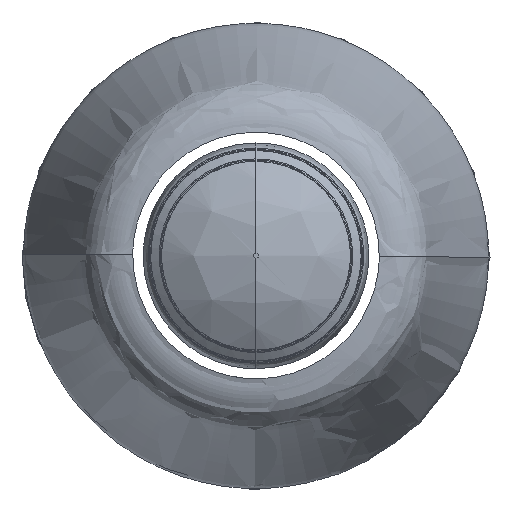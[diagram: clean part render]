
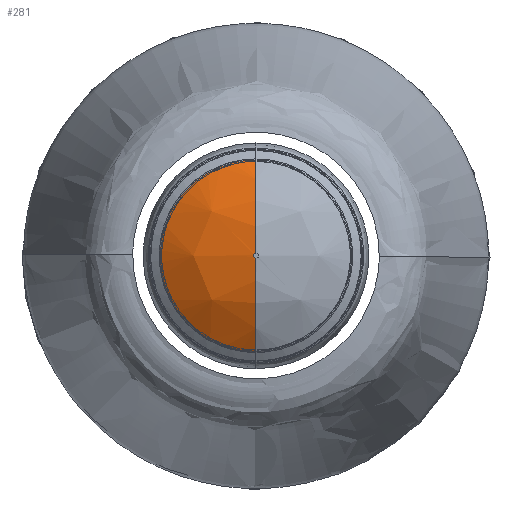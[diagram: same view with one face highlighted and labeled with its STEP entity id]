
A CAD part, top view. The second image highlights one B-rep face of the part: STEP entity #281.
In plain terms, the highlighted free-form (B-spline) face has degree [2, 2] with [9, 9] control points.
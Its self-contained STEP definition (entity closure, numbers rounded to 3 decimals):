
#281=ADVANCED_FACE('',(#935),#9039,.T.);
#935=FACE_OUTER_BOUND('',#1607,.T.);
#1607=EDGE_LOOP('',(#2770,#2771,#2772,#2773));
#2770=ORIENTED_EDGE('',*,*,#5384,.F.);
#2771=ORIENTED_EDGE('',*,*,#5387,.T.);
#2772=ORIENTED_EDGE('',*,*,#5388,.T.);
#2773=ORIENTED_EDGE('',*,*,#5389,.T.);
#5384=EDGE_CURVE('',#8130,#8131,#7311,.T.);
#5387=EDGE_CURVE('',#8130,#8132,#7314,.T.);
#5388=EDGE_CURVE('',#8132,#8133,#7315,.T.);
#5389=EDGE_CURVE('',#8133,#8131,#7316,.T.);
#7311=(
BOUNDED_CURVE()
B_SPLINE_CURVE(2,(#24371,#24372,#24373,#24374,#24375),.UNSPECIFIED.,.F.,
 .F.)
B_SPLINE_CURVE_WITH_KNOTS((3,2,3),(0.,116.48,232.959),
 .UNSPECIFIED.)
CURVE()
GEOMETRIC_REPRESENTATION_ITEM()
RATIONAL_B_SPLINE_CURVE((1.,0.707,1.,0.707,1.))
REPRESENTATION_ITEM('')
);
#7314=(
BOUNDED_CURVE()
B_SPLINE_CURVE(2,(#24382,#24383,#24384),.UNSPECIFIED.,.F.,.F.)
B_SPLINE_CURVE_WITH_KNOTS((3,3),(0.,76.904),.UNSPECIFIED.)
CURVE()
GEOMETRIC_REPRESENTATION_ITEM()
RATIONAL_B_SPLINE_CURVE((1.,0.953,1.))
REPRESENTATION_ITEM('')
);
#7315=(
BOUNDED_CURVE()
B_SPLINE_CURVE(2,(#24385,#24386,#24387,#24388,#24389),.UNSPECIFIED.,.F.,
 .F.)
B_SPLINE_CURVE_WITH_KNOTS((3,2,3),(0.,3.142,6.283),
 .UNSPECIFIED.)
CURVE()
GEOMETRIC_REPRESENTATION_ITEM()
RATIONAL_B_SPLINE_CURVE((1.,0.707,1.,0.707,1.))
REPRESENTATION_ITEM('')
);
#7316=(
BOUNDED_CURVE()
B_SPLINE_CURVE(2,(#24390,#24391,#24392),.UNSPECIFIED.,.F.,.F.)
B_SPLINE_CURVE_WITH_KNOTS((3,3),(0.,76.904),.UNSPECIFIED.)
CURVE()
GEOMETRIC_REPRESENTATION_ITEM()
RATIONAL_B_SPLINE_CURVE((1.,0.953,1.))
REPRESENTATION_ITEM('')
);
#8130=VERTEX_POINT('',#23784);
#8131=VERTEX_POINT('',#23785);
#8132=VERTEX_POINT('',#23786);
#8133=VERTEX_POINT('',#23787);
#9039=(
BOUNDED_SURFACE()
B_SPLINE_SURFACE(2,2,((#17098,#17099,#17100,#17101,#17102,#17103,#17104,
#17105,#17106),(#17107,#17108,#17109,#17110,#17111,#17112,#17113,#17114,
#17115),(#17116,#17117,#17118,#17119,#17120,#17121,#17122,#17123,#17124),
(#17125,#17126,#17127,#17128,#17129,#17130,#17131,#17132,#17133),(#17134,
#17135,#17136,#17137,#17138,#17139,#17140,#17141,#17142),(#17143,#17144,
#17145,#17146,#17147,#17148,#17149,#17150,#17151),(#17152,#17153,#17154,
#17155,#17156,#17157,#17158,#17159,#17160),(#17161,#17162,#17163,#17164,
#17165,#17166,#17167,#17168,#17169),(#17170,#17171,#17172,#17173,#17174,
#17175,#17176,#17177,#17178)),.UNSPECIFIED.,.T.,.F.,.F.)
B_SPLINE_SURFACE_WITH_KNOTS((3,2,2,2,3),(3,2,2,2,3),(0.,199.7,
399.4,599.1,798.8),(0.,99.279,
198.559,297.838,397.117),.UNSPECIFIED.)
GEOMETRIC_REPRESENTATION_ITEM()
RATIONAL_B_SPLINE_SURFACE(((1.,0.922,1.,0.922,1.,
0.922,1.,0.922,1.),(0.707,0.652,
0.707,0.652,0.707,0.652,
0.707,0.652,0.707),(1.,0.922,
1.,0.922,1.,0.922,1.,0.922,1.),(0.707,
0.652,0.707,0.652,0.707,
0.652,0.707,0.652,0.707),
(1.,0.922,1.,0.922,1.,0.922,1.,0.922,
1.),(0.707,0.652,0.707,0.652,
0.707,0.652,0.707,0.652,
0.707),(1.,0.922,1.,0.922,1.,0.922,
1.,0.922,1.),(0.707,0.652,0.707,
0.652,0.707,0.652,0.707,
0.652,0.707),(1.,0.922,1.,0.922,
1.,0.922,1.,0.922,1.)))
REPRESENTATION_ITEM('')
SURFACE()
);
#17098=CARTESIAN_POINT('',(8673.,0.,1520.45));
#17099=CARTESIAN_POINT('',(8725.412,0.,1519.612));
#17100=CARTESIAN_POINT('',(8762.772,0.,1556.38));
#17101=CARTESIAN_POINT('',(8800.133,0.,1593.148));
#17102=CARTESIAN_POINT('',(8800.133,0.,1645.567));
#17103=CARTESIAN_POINT('',(8800.133,0.,1697.986));
#17104=CARTESIAN_POINT('',(8762.772,0.,1734.754));
#17105=CARTESIAN_POINT('',(8725.412,0.,1771.522));
#17106=CARTESIAN_POINT('',(8673.,0.,1770.684));
#17107=CARTESIAN_POINT('',(8673.,0.,1520.45));
#17108=CARTESIAN_POINT('',(8725.412,52.412,1519.612));
#17109=CARTESIAN_POINT('',(8762.772,89.772,1556.38));
#17110=CARTESIAN_POINT('',(8800.133,127.133,1593.148));
#17111=CARTESIAN_POINT('',(8800.133,127.133,1645.567));
#17112=CARTESIAN_POINT('',(8800.133,127.133,1697.986));
#17113=CARTESIAN_POINT('',(8762.772,89.772,1734.754));
#17114=CARTESIAN_POINT('',(8725.412,52.412,1771.522));
#17115=CARTESIAN_POINT('',(8673.,0.,1770.684));
#17116=CARTESIAN_POINT('',(8673.,0.,1520.45));
#17117=CARTESIAN_POINT('',(8673.,52.412,1519.612));
#17118=CARTESIAN_POINT('',(8673.,89.772,1556.38));
#17119=CARTESIAN_POINT('',(8673.,127.133,1593.148));
#17120=CARTESIAN_POINT('',(8673.,127.133,1645.567));
#17121=CARTESIAN_POINT('',(8673.,127.133,1697.986));
#17122=CARTESIAN_POINT('',(8673.,89.772,1734.754));
#17123=CARTESIAN_POINT('',(8673.,52.412,1771.522));
#17124=CARTESIAN_POINT('',(8673.,0.,1770.684));
#17125=CARTESIAN_POINT('',(8673.,0.,1520.45));
#17126=CARTESIAN_POINT('',(8620.588,52.412,1519.612));
#17127=CARTESIAN_POINT('',(8583.228,89.772,1556.38));
#17128=CARTESIAN_POINT('',(8545.867,127.133,1593.148));
#17129=CARTESIAN_POINT('',(8545.867,127.133,1645.567));
#17130=CARTESIAN_POINT('',(8545.867,127.133,1697.986));
#17131=CARTESIAN_POINT('',(8583.228,89.772,1734.754));
#17132=CARTESIAN_POINT('',(8620.588,52.412,1771.522));
#17133=CARTESIAN_POINT('',(8673.,0.,1770.684));
#17134=CARTESIAN_POINT('',(8673.,0.,1520.45));
#17135=CARTESIAN_POINT('',(8620.588,0.,1519.612));
#17136=CARTESIAN_POINT('',(8583.228,0.,1556.38));
#17137=CARTESIAN_POINT('',(8545.867,0.,1593.148));
#17138=CARTESIAN_POINT('',(8545.867,0.,1645.567));
#17139=CARTESIAN_POINT('',(8545.867,0.,1697.986));
#17140=CARTESIAN_POINT('',(8583.228,0.,1734.754));
#17141=CARTESIAN_POINT('',(8620.588,0.,1771.522));
#17142=CARTESIAN_POINT('',(8673.,0.,1770.684));
#17143=CARTESIAN_POINT('',(8673.,0.,1520.45));
#17144=CARTESIAN_POINT('',(8620.588,-52.412,1519.612));
#17145=CARTESIAN_POINT('',(8583.228,-89.772,1556.38));
#17146=CARTESIAN_POINT('',(8545.867,-127.133,1593.148));
#17147=CARTESIAN_POINT('',(8545.867,-127.133,1645.567));
#17148=CARTESIAN_POINT('',(8545.867,-127.133,1697.986));
#17149=CARTESIAN_POINT('',(8583.228,-89.772,1734.754));
#17150=CARTESIAN_POINT('',(8620.588,-52.412,1771.522));
#17151=CARTESIAN_POINT('',(8673.,0.,1770.684));
#17152=CARTESIAN_POINT('',(8673.,0.,1520.45));
#17153=CARTESIAN_POINT('',(8673.,-52.412,1519.612));
#17154=CARTESIAN_POINT('',(8673.,-89.772,1556.38));
#17155=CARTESIAN_POINT('',(8673.,-127.133,1593.148));
#17156=CARTESIAN_POINT('',(8673.,-127.133,1645.567));
#17157=CARTESIAN_POINT('',(8673.,-127.133,1697.986));
#17158=CARTESIAN_POINT('',(8673.,-89.772,1734.754));
#17159=CARTESIAN_POINT('',(8673.,-52.412,1771.522));
#17160=CARTESIAN_POINT('',(8673.,0.,1770.684));
#17161=CARTESIAN_POINT('',(8673.,0.,1520.45));
#17162=CARTESIAN_POINT('',(8725.412,-52.412,1519.612));
#17163=CARTESIAN_POINT('',(8762.772,-89.772,1556.38));
#17164=CARTESIAN_POINT('',(8800.133,-127.133,1593.148));
#17165=CARTESIAN_POINT('',(8800.133,-127.133,1645.567));
#17166=CARTESIAN_POINT('',(8800.133,-127.133,1697.986));
#17167=CARTESIAN_POINT('',(8762.772,-89.772,1734.754));
#17168=CARTESIAN_POINT('',(8725.412,-52.412,1771.522));
#17169=CARTESIAN_POINT('',(8673.,0.,1770.684));
#17170=CARTESIAN_POINT('',(8673.,0.,1520.45));
#17171=CARTESIAN_POINT('',(8725.412,0.,1519.612));
#17172=CARTESIAN_POINT('',(8762.772,0.,1556.38));
#17173=CARTESIAN_POINT('',(8800.133,0.,1593.148));
#17174=CARTESIAN_POINT('',(8800.133,0.,1645.567));
#17175=CARTESIAN_POINT('',(8800.133,0.,1697.986));
#17176=CARTESIAN_POINT('',(8762.772,0.,1734.754));
#17177=CARTESIAN_POINT('',(8725.412,0.,1771.522));
#17178=CARTESIAN_POINT('',(8673.,0.,1770.684));
#23784=CARTESIAN_POINT('',(8673.,-74.153,1747.803));
#23785=CARTESIAN_POINT('',(8673.,74.153,1747.803));
#23786=CARTESIAN_POINT('',(8673.,-2.,1770.7));
#23787=CARTESIAN_POINT('',(8673.,2.,1770.7));
#24371=CARTESIAN_POINT('',(8673.,-74.153,1747.803));
#24372=CARTESIAN_POINT('',(8598.847,-74.153,1747.803));
#24373=CARTESIAN_POINT('',(8598.847,0.,1747.803));
#24374=CARTESIAN_POINT('',(8598.847,74.153,1747.803));
#24375=CARTESIAN_POINT('',(8673.,74.153,1747.803));
#24382=CARTESIAN_POINT('',(8673.,-74.153,1747.803));
#24383=CARTESIAN_POINT('',(8673.,-41.71,1770.7));
#24384=CARTESIAN_POINT('',(8673.,-2.,1770.7));
#24385=CARTESIAN_POINT('',(8673.,-2.,1770.7));
#24386=CARTESIAN_POINT('',(8671.,-2.,1770.7));
#24387=CARTESIAN_POINT('',(8671.,0.,1770.7));
#24388=CARTESIAN_POINT('',(8671.,2.,1770.7));
#24389=CARTESIAN_POINT('',(8673.,2.,1770.7));
#24390=CARTESIAN_POINT('',(8673.,2.,1770.7));
#24391=CARTESIAN_POINT('',(8673.,41.71,1770.7));
#24392=CARTESIAN_POINT('',(8673.,74.153,1747.803));
